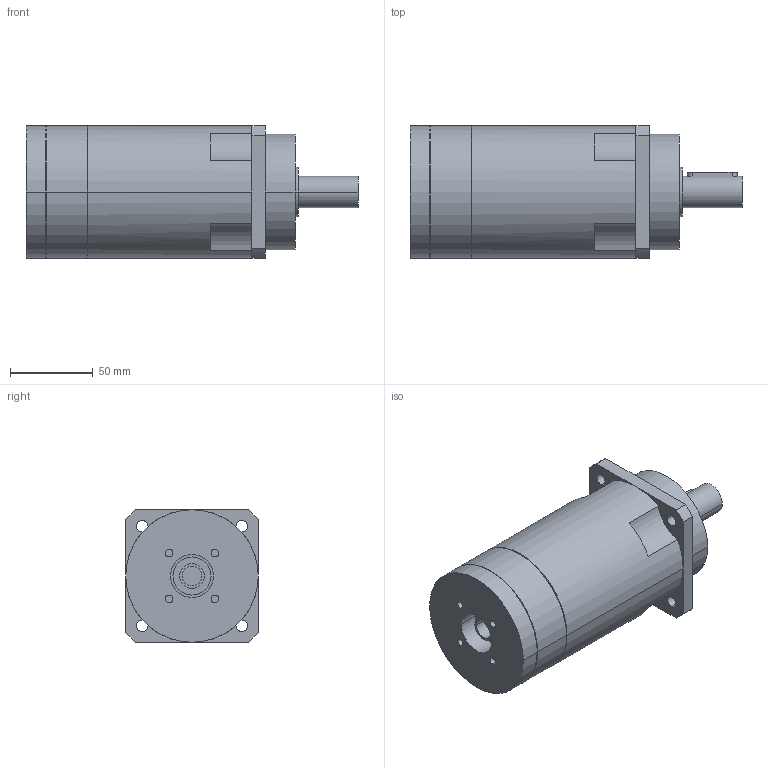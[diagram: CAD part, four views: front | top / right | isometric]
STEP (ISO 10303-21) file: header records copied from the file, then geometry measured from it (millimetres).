
FILE_DESCRIPTION(('CoCreate Modeling STEP Export'),'2;1');
FILE_NAME('GPR100_ig-48-64-80-100-120-144-180-216_19_B5_12.7_P09.stp','2014-08-26T11:54:19',(''),(''),'CoCreate Modeling STEP processor for AP214 (Solid Model)','CoCreate Modeling 16.00C 25-Feb-2009 (C) Parametric Technology GmbH','');
FILE_SCHEMA(('AUTOMOTIVE_DESIGN { 1 0 10303 214 1 1 1 1 }'));
Length unit declared in the file: millimetre
Products named in the file (2): GPR100_ig-48-64-80-100-120-144-180-216_19_B5_12.7_P09
Assembly tree (1 placements, depth 2):
  GPR100_ig-48-64-80-100-120-144-180-216_19_B5_12.7_P09
    GPR100_ig-48-64-80-100-120-144-180-216_19_B5_12.7_P09
Bounding box: 200.4 x 80 x 80 mm (x, y, z)
Volume: 798548.1 mm3; surface area: 60607.9 mm2
Topology: 1 solids, 1 shells, 96 faces, 249 edges, 171 vertices
Faces by surface type: cylinder 56, plane 34, cone 6
Entity records: 2604 total; most frequent: ORIENTED_EDGE 494, CARTESIAN_POINT 467, DIRECTION 376, EDGE_CURVE 247, VERTEX_POINT 171, AXIS2_PLACEMENT_3D 144, EDGE_LOOP 122, FACE_OUTER_BOUND 96
